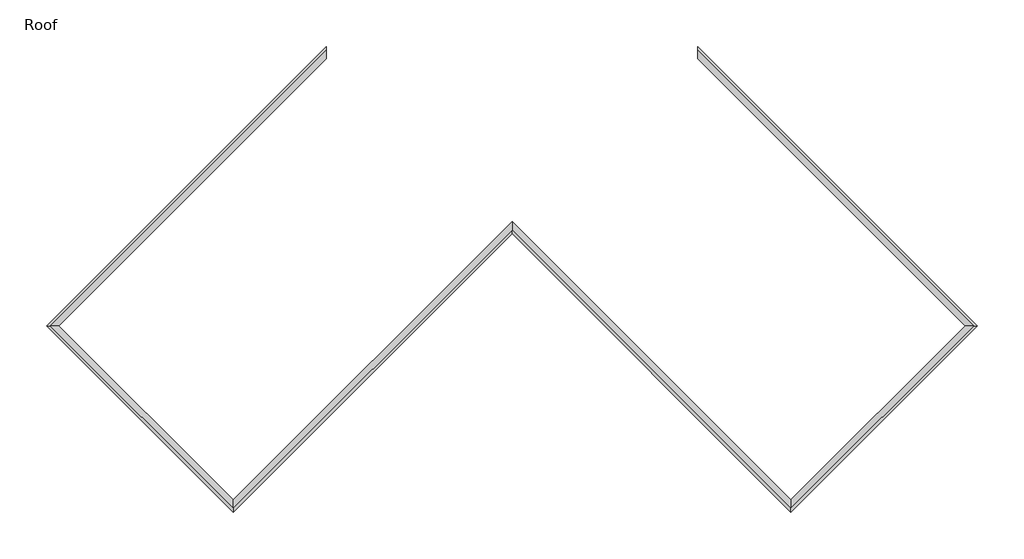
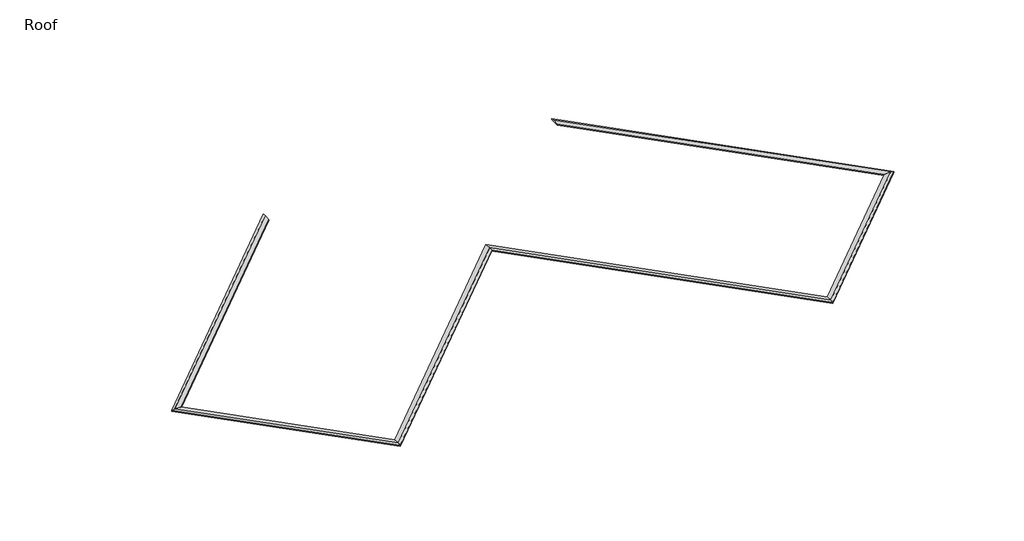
# One storey, incomplete: 6 proxies.
"""IFC4 building model written with IfcOpenShell, lengths in millimetres."""

from ifc_helpers import new_model, si_unit, origin, place, context, project, spatial, faceted_brep, element, save

model = new_model("IFC4")

# Units and contexts
model_context = context("Model", 3, world=origin())
ifc_project = project(units=[si_unit("LENGTHUNIT", "METRE", prefix="MILLI")], contexts=[model_context])

# Site, building, storey
site = spatial("IfcSite", under=ifc_project)
building = spatial("IfcBuilding", under=site)
storey = spatial("IfcBuildingStorey", under=building, Name="Roof", Elevation=4572.0)

# Proxies
placement = place(None, origin())
element("IfcBuildingElementProxy", 1, Name="Wall Sweeps", at=placement, inside=storey, context=model_context, shape_type="Brep", body=[
    faceted_brep([(5178.0352806, 10404.2776392, 4635.5), (5178.0352806, 10799.4089085, 4673.6), (5178.0352806, 10979.014031, 4635.5), (5178.0352806, 10979.014031, 4572.0), (5178.0352806, 10404.2776392, 4572.0), (17570.7887277, -1988.4758079, 4635.5), (17570.7887277, -1988.4758079, 4572.0), (18145.5251194, -1988.4758079, 4572.0), (18145.5251194, -1988.4758079, 4635.5), (17965.919997, -1988.4758079, 4673.6)], [[[0, 1, 2, 3, 4]], [[5, 6, 7, 8, 9]], [[1, 0, 5, 9]], [[2, 1, 9, 8]], [[3, 2, 8, 7]], [[4, 3, 7, 6]], [[0, 4, 6, 5]]]),
])
element("IfcBuildingElementProxy", 2, Name="Wall Sweeps", at=placement, inside=storey, context=model_context, shape_type="Brep", body=[
    faceted_brep([(17570.7887277, -1988.4758079, 4635.5), (17965.919997, -1988.4758079, 4673.6), (18145.5251194, -1988.4758079, 4635.5), (18145.5251194, -1988.4758079, 4572.0), (17570.7887277, -1988.4758079, 4572.0), (9488.5582187, -10070.7063168, 4635.5), (9488.5582187, -10070.7063168, 4572.0), (9488.5582187, -10645.4427086, 4572.0), (9488.5582187, -10645.4427086, 4635.5), (9488.5582187, -10465.8375862, 4673.6)], [[[0, 1, 2, 3, 4]], [[5, 6, 7, 8, 9]], [[1, 0, 5, 9]], [[2, 1, 9, 8]], [[3, 2, 8, 7]], [[4, 3, 7, 6]], [[0, 4, 6, 5]]]),
])
element("IfcBuildingElementProxy", 3, Name="Wall Sweeps", at=placement, inside=storey, context=model_context, shape_type="Brep", body=[
    faceted_brep([(9488.5582187, -10070.7063168, 4635.5), (9488.5582187, -10465.8375862, 4673.6), (9488.5582187, -10645.4427086, 4635.5), (9488.5582187, -10645.4427086, 4572.0), (9488.5582187, -10070.7063168, 4572.0), (-3443.0105956, 2860.8624975, 4635.5), (-3443.0105956, 2860.8624975, 4572.0), (-3443.0105956, 2286.1261058, 4572.0), (-3443.0105956, 2286.1261058, 4635.5), (-3443.0105956, 2465.7312282, 4673.6)], [[[0, 1, 2, 3, 4]], [[5, 6, 7, 8, 9]], [[1, 0, 5, 9]], [[2, 1, 9, 8]], [[3, 2, 8, 7]], [[4, 3, 7, 6]], [[0, 4, 6, 5]]]),
])
element("IfcBuildingElementProxy", 4, Name="Wall Sweeps", at=placement, inside=storey, context=model_context, shape_type="Brep", body=[
    faceted_brep([(-3443.0105956, 2860.8624975, 4635.5), (-3443.0105956, 2465.7312282, 4673.6), (-3443.0105956, 2286.1261058, 4635.5), (-3443.0105956, 2286.1261058, 4572.0), (-3443.0105956, 2860.8624975, 4572.0), (-16374.5794099, -10070.7063168, 4635.5), (-16374.5794099, -10070.7063168, 4572.0), (-16374.5794099, -10645.4427086, 4572.0), (-16374.5794099, -10645.4427086, 4635.5), (-16374.5794099, -10465.8375862, 4673.6)], [[[0, 1, 2, 3, 4]], [[5, 6, 7, 8, 9]], [[1, 0, 5, 9]], [[2, 1, 9, 8]], [[3, 2, 8, 7]], [[4, 3, 7, 6]], [[0, 4, 6, 5]]]),
])
element("IfcBuildingElementProxy", 5, Name="Wall Sweeps", at=placement, inside=storey, context=model_context, shape_type="Brep", body=[
    faceted_brep([(-16374.5794099, -10070.7063168, 4635.5), (-16374.5794099, -10465.8375862, 4673.6), (-16374.5794099, -10645.4427086, 4635.5), (-16374.5794099, -10645.4427086, 4572.0), (-16374.5794099, -10070.7063168, 4572.0), (-24456.8099189, -1988.4758079, 4635.5), (-24456.8099189, -1988.4758079, 4572.0), (-25031.5463107, -1988.4758079, 4572.0), (-25031.5463107, -1988.4758079, 4635.5), (-24851.9411882, -1988.4758079, 4673.6)], [[[0, 1, 2, 3, 4]], [[5, 6, 7, 8, 9]], [[1, 0, 5, 9]], [[2, 1, 9, 8]], [[3, 2, 8, 7]], [[4, 3, 7, 6]], [[0, 4, 6, 5]]]),
])
element("IfcBuildingElementProxy", 6, Name="Wall Sweeps", at=placement, inside=storey, context=model_context, shape_type="Brep", body=[
    faceted_brep([(-24456.8099189, -1988.4758079, 4635.5), (-24851.9411882, -1988.4758079, 4673.6), (-25031.5463107, -1988.4758079, 4635.5), (-25031.5463107, -1988.4758079, 4572.0), (-24456.8099189, -1988.4758079, 4572.0), (-12064.0564718, 10404.2776392, 4635.5), (-12064.0564718, 10404.2776392, 4572.0), (-12064.0564718, 10979.014031, 4572.0), (-12064.0564718, 10979.014031, 4635.5), (-12064.0564718, 10799.4089085, 4673.6)], [[[0, 1, 2, 3, 4]], [[5, 6, 7, 8, 9]], [[1, 0, 5, 9]], [[2, 1, 9, 8]], [[3, 2, 8, 7]], [[4, 3, 7, 6]], [[0, 4, 6, 5]]]),
])

save(model, "model.ifc")
